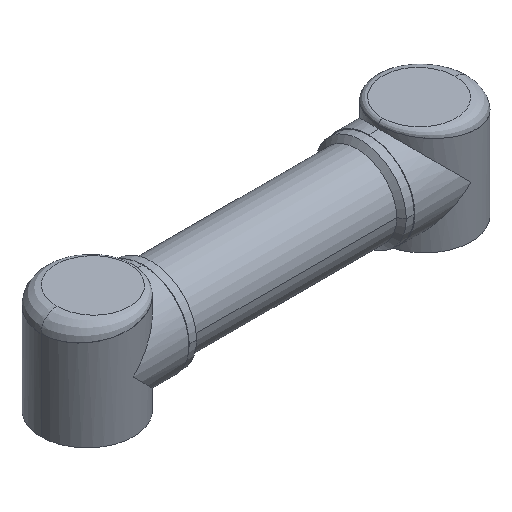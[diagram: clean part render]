
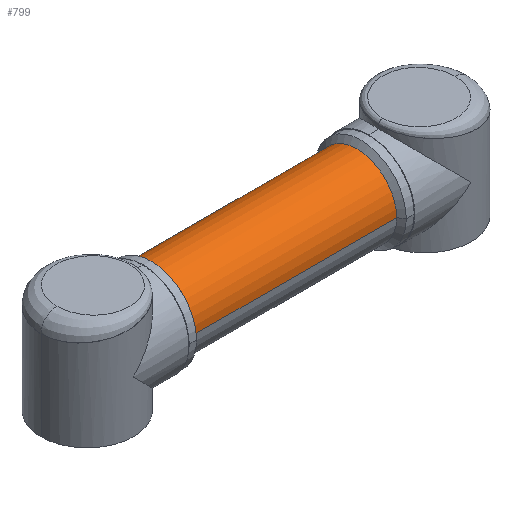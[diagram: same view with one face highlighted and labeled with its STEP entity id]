
A CAD part, isometric view. The second image highlights one B-rep face of the part: STEP entity #799.
In plain terms, the highlighted cylindrical face has radius 50 mm (diameter 100 mm), a partial arc.
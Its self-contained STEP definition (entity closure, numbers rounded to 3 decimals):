
#125 = EDGE_CURVE ( 'NONE', #927, #1356, #1053, .T. ) ;
#179 = DIRECTION ( 'NONE',  ( 0., -1., 0. ) ) ;
#305 = DIRECTION ( 'NONE',  ( 1., 0., 0. ) ) ;
#392 = CARTESIAN_POINT ( 'NONE',  ( 423.795, 50., 135.7 ) ) ;
#437 = FACE_OUTER_BOUND ( 'NONE', #3851, .T. ) ;
#484 = CARTESIAN_POINT ( 'NONE',  ( 85.5, 50., 135.7 ) ) ;
#689 = DIRECTION ( 'NONE',  ( 1., 0., 0. ) ) ;
#799 = ADVANCED_FACE ( 'NONE', ( #437 ), #2548, .T. ) ;
#927 = VERTEX_POINT ( 'NONE', #484 ) ;
#954 = CARTESIAN_POINT ( 'NONE',  ( 339.5, 0., 135.7 ) ) ;
#1053 = LINE ( 'NONE', #392, #3444 ) ;
#1231 = AXIS2_PLACEMENT_3D ( 'NONE', #1963, #3153, #2567 ) ;
#1323 = EDGE_CURVE ( 'NONE', #927, #2696, #2115, .T. ) ;
#1356 = VERTEX_POINT ( 'NONE', #3234 ) ;
#1602 = EDGE_CURVE ( 'NONE', #2696, #3170, #3198, .T. ) ;
#1675 = CARTESIAN_POINT ( 'NONE',  ( 85.5, 0., 135.7 ) ) ;
#1772 = CARTESIAN_POINT ( 'NONE',  ( 423.795, -50., 135.7 ) ) ;
#1833 = ORIENTED_EDGE ( 'NONE', *, *, #1602, .T. ) ;
#1963 = CARTESIAN_POINT ( 'NONE',  ( 423.795, 0., 135.7 ) ) ;
#2033 = AXIS2_PLACEMENT_3D ( 'NONE', #1675, #3807, #179 ) ;
#2115 = CIRCLE ( 'NONE', #2033, 50. ) ;
#2246 = CARTESIAN_POINT ( 'NONE',  ( 339.5, -50., 135.7 ) ) ;
#2342 = CIRCLE ( 'NONE', #3342, 50. ) ;
#2548 = CYLINDRICAL_SURFACE ( 'NONE', #1231, 50. ) ;
#2567 = DIRECTION ( 'NONE',  ( 0., -1., 0. ) ) ;
#2609 = ORIENTED_EDGE ( 'NONE', *, *, #125, .F. ) ;
#2696 = VERTEX_POINT ( 'NONE', #3498 ) ;
#2847 = VECTOR ( 'NONE', #305, 1000. ) ;
#2994 = ORIENTED_EDGE ( 'NONE', *, *, #3745, .F. ) ;
#3153 = DIRECTION ( 'NONE',  ( 1., 0., 0. ) ) ;
#3170 = VERTEX_POINT ( 'NONE', #2246 ) ;
#3198 = LINE ( 'NONE', #1772, #2847 ) ;
#3234 = CARTESIAN_POINT ( 'NONE',  ( 339.5, 50., 135.7 ) ) ;
#3342 = AXIS2_PLACEMENT_3D ( 'NONE', #954, #689, #3391 ) ;
#3391 = DIRECTION ( 'NONE',  ( 0., -1., 0. ) ) ;
#3444 = VECTOR ( 'NONE', #3449, 1000. ) ;
#3449 = DIRECTION ( 'NONE',  ( 1., 0., 0. ) ) ;
#3498 = CARTESIAN_POINT ( 'NONE',  ( 85.5, -50., 135.7 ) ) ;
#3745 = EDGE_CURVE ( 'NONE', #1356, #3170, #2342, .T. ) ;
#3807 = DIRECTION ( 'NONE',  ( 1., 0., 0. ) ) ;
#3811 = ORIENTED_EDGE ( 'NONE', *, *, #1323, .T. ) ;
#3851 = EDGE_LOOP ( 'NONE', ( #2609, #3811, #1833, #2994 ) ) ;
